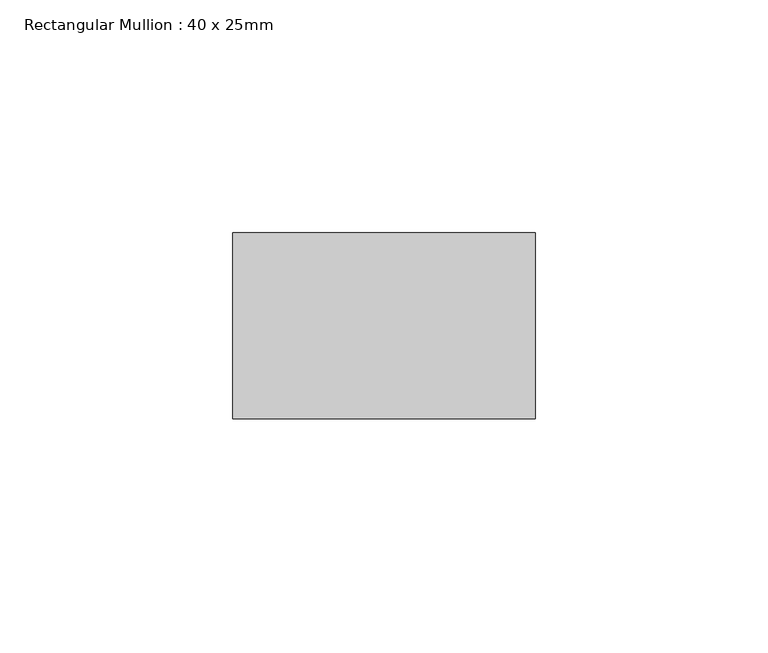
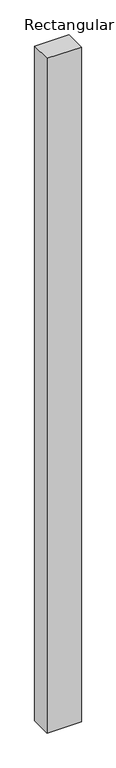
"""IFC4 building model written with IfcOpenShell, lengths in millimetres: member geometry, Rectangular Mullion : 40 x 25mm."""

import ifcopenshell
import ifcopenshell.guid

model = None  # the IFC model being written
_history = None  # IfcOwnerHistory: only IFC2X3 demands one
_inside = {}  # id of a spatial element -> (the spatial element, [elements in it])
_under = {}  # id of a project, library or spatial element -> (it, [spatial elements below it])
_declared = {}  # id of a project -> (the project, [libraries it declares])
_typed = {}  # id of a type object -> (the type object, [elements of that type])
_made_of = {}  # id of a material, layer set ... -> (it, [elements and type objects made of it])


def new_model(schema):
    """Start an empty IFC model of exactly this schema.

    Asked for "IFC4X3", IfcOpenShell would pick the latest addendum, in which some entities
    have other attributes; the version numbers below select the first issue.
    IFC2X3 requires an IfcOwnerHistory on every rooted entity: one is made here for all.
    """
    global model, _history
    if schema == "IFC4X3":
        model = ifcopenshell.file(schema_version=(4, 3, 0, 0))
    else:
        model = ifcopenshell.file(schema=schema)
    _inside.clear()
    _under.clear()
    _declared.clear()
    _typed.clear()
    _made_of.clear()
    _history = None
    if model.schema == "IFC2X3":
        org = make("IfcOrganization", Name="unknown")
        user = make(
            "IfcPersonAndOrganization",
            ThePerson=make("IfcPerson", FamilyName="unknown"),
            TheOrganization=org,
        )
        app = make(
            "IfcApplication",
            ApplicationDeveloper=org,
            Version="unknown",
            ApplicationFullName="unknown",
            ApplicationIdentifier="unknown",
        )
        _history = make(
            "IfcOwnerHistory",
            OwningUser=user,
            OwningApplication=app,
            ChangeAction="ADDED",
            CreationDate=0,
        )
    return model


def make(cls, **values):
    """One entity of the class cls with the attributes given. An attribute that is None is left unset."""
    return model.create_entity(
        cls, **{name: value for name, value in values.items() if value is not None}
    )


def rooted(cls, **values):
    """An entity with a GlobalId (a new one), such as an element, a storey or a relation."""
    return make(cls, GlobalId=ifcopenshell.guid.new(), OwnerHistory=_history, **values)


def si_unit(unit_type, name, prefix=None):
    """IfcSIUnit, for example si_unit("LENGTHUNIT", "METRE", prefix="MILLI")."""
    return make("IfcSIUnit", UnitType=unit_type, Prefix=prefix, Name=name)


def assignment(units):
    """IfcUnitAssignment: the units of a project."""
    return None if units is None else make("IfcUnitAssignment", Units=units)


def point(xyz):
    """IfcCartesianPoint."""
    return None if xyz is None else make("IfcCartesianPoint", Coordinates=xyz)


def direction(xyz):
    """IfcDirection."""
    return None if xyz is None else make("IfcDirection", DirectionRatios=xyz)


def frame(location, z_axis=None, x_axis=None):
    """IfcAxis2Placement3D, a coordinate frame: its origin and axes. An axis left out is left unset."""
    return make(
        "IfcAxis2Placement3D",
        Location=point(location),
        Axis=direction(z_axis),
        RefDirection=direction(x_axis),
    )


def origin():
    """The frame at (0, 0, 0) with its axes left unset."""
    return frame((0.0, 0.0, 0.0))


def place(relative_to, where):
    """IfcLocalPlacement: puts the frame where relative to a parent placement (None: the world)."""
    return make(
        "IfcLocalPlacement", PlacementRelTo=relative_to, RelativePlacement=where
    )


def context(
    kind, dimensions, precision=None, world=None, true_north=None, identifier=None
):
    """IfcGeometricRepresentationContext, for example the 3D "Model" context."""
    return make(
        "IfcGeometricRepresentationContext",
        ContextIdentifier=identifier,
        ContextType=kind,
        CoordinateSpaceDimension=dimensions,
        Precision=precision,
        WorldCoordinateSystem=world,
        TrueNorth=true_north,
    )


def project(units=None, contexts=None):
    """IfcProject with its units and contexts."""
    return rooted(
        "IfcProject",
        Name="project",
        RepresentationContexts=contexts,
        UnitsInContext=assignment(units),
    )


def spatial(cls, under=None, at=None, **own):
    """A site, building, storey or space (cls), placed at a placement, below another one or the project."""
    s = rooted(cls, ObjectPlacement=at, **own)
    if under is not None:
        _under.setdefault(under.id(), (under, []))[1].append(s)
    return s


def polyline(points):
    """IfcPolyline through the points."""
    return make("IfcPolyline", Points=[point(p) for p in points])


def outline(outer, holes=None, kind="AREA"):
    """IfcArbitraryClosedProfileDef: a profile drawn as a closed curve; with holes, ...WithVoids."""
    if holes is None:
        return make("IfcArbitraryClosedProfileDef", ProfileType=kind, OuterCurve=outer)
    return make(
        "IfcArbitraryProfileDefWithVoids",
        ProfileType=kind,
        OuterCurve=outer,
        InnerCurves=holes,
    )


def extrude(swept, where, along, depth):
    """IfcExtrudedAreaSolid: the profile swept, set in the frame where, extruded along a direction by depth."""
    return make(
        "IfcExtrudedAreaSolid",
        SweptArea=swept,
        Position=where,
        ExtrudedDirection=direction(along),
        Depth=depth,
    )


def shape(context_of_items, identifier, shape_type, items):
    """IfcShapeRepresentation: the items that make up one representation, for example the "Body"."""
    return make(
        "IfcShapeRepresentation",
        ContextOfItems=context_of_items,
        RepresentationIdentifier=identifier,
        RepresentationType=shape_type,
        Items=items,
    )


def source(mapping_origin, context_of_items, identifier, shape_type, items):
    """IfcRepresentationMap: a shape defined once, which mapped items show again and again."""
    return make(
        "IfcRepresentationMap",
        MappingOrigin=mapping_origin,
        MappedRepresentation=shape(context_of_items, identifier, shape_type, items),
    )


def transform(
    local_origin,
    x_axis=None,
    y_axis=None,
    z_axis=None,
    scale=None,
    scale2=None,
    scale3=None,
    uniform=True,
):
    """IfcCartesianTransformationOperator3D, or its non-uniform kind. x_axis, y_axis, z_axis: its Axis1, 2, 3."""
    if uniform:
        return make(
            "IfcCartesianTransformationOperator3D",
            Axis1=direction(x_axis),
            Axis2=direction(y_axis),
            LocalOrigin=point(local_origin),
            Scale=scale,
            Axis3=direction(z_axis),
        )
    return make(
        "IfcCartesianTransformationOperator3DnonUniform",
        Axis1=direction(x_axis),
        Axis2=direction(y_axis),
        LocalOrigin=point(local_origin),
        Scale=scale,
        Axis3=direction(z_axis),
        Scale2=scale2,
        Scale3=scale3,
    )


def mapped(mapping_source, mapping_target):
    """IfcMappedItem: shows the shape of a source again, moved by a transform."""
    return make(
        "IfcMappedItem", MappingSource=mapping_source, MappingTarget=mapping_target
    )


def made_of(thing, what):
    """Note that an element or type object is made of a material, layer set ...; save() writes the relation."""
    if what is not None:
        _made_of.setdefault(what.id(), (what, []))[1].append(thing)
    return thing


def element(
    cls,
    number,
    at=None,
    inside=None,
    cuts=None,
    type_object=None,
    material=None,
    context=None,
    identifier="Body",
    shape_type=None,
    held_by="IfcProductDefinitionShape",
    body=None,
    shapes=None,
    **own,
):
    """One element of the class cls, such as IfcWall. Its Tag is "e" and its number.

    at: its placement. inside: the storey or other place that contains it. cuts: it is an
    opening in that element (IfcRelVoidsElement). A single representation is given by context,
    identifier, shape_type and body (its items); several are given by shapes. held_by: the class
    of the entity that holds the representations. save() writes the other relations.
    """
    e = rooted(cls, Tag="e%d" % number, ObjectPlacement=at, **own)
    if body is not None:
        shapes = [shape(context, identifier, shape_type, body)]
    if shapes is not None:
        e.Representation = make(held_by, Representations=shapes)
    if inside is not None:
        _inside.setdefault(inside.id(), (inside, []))[1].append(e)
    if cuts is not None:
        rooted(
            "IfcRelVoidsElement", RelatingBuildingElement=cuts, RelatedOpeningElement=e
        )
    if type_object is not None:
        _typed.setdefault(type_object.id(), (type_object, []))[1].append(e)
    return made_of(e, material)


def aggregate(whole, parts):
    """IfcRelAggregates: a whole, such as a stair, and the parts it consists of."""
    return rooted("IfcRelAggregates", RelatingObject=whole, RelatedObjects=parts)


def save(model, path):
    """Write the relations noted so far, then the file.

    IfcRelAggregates (storeys below a building ...), IfcRelContainedInSpatialStructure (elements
    in a storey), IfcRelDefinesByType, IfcRelAssociatesMaterial and IfcRelDeclares: one each for
    every whole, place, type object, material and project.
    """
    for whole, parts in _under.values():
        aggregate(whole, parts)
    for where, things in _inside.values():
        rooted(
            "IfcRelContainedInSpatialStructure",
            RelatedElements=things,
            RelatingStructure=where,
        )
    for kind, things in _typed.values():
        rooted("IfcRelDefinesByType", RelatedObjects=things, RelatingType=kind)
    for what, things in _made_of.values():
        rooted("IfcRelAssociatesMaterial", RelatedObjects=things, RelatingMaterial=what)
    for by, libraries in _declared.values():
        rooted("IfcRelDeclares", RelatingContext=by, RelatedDefinitions=libraries)
    model.write(path)


def rectangular_mullion_40_x_25mm_f11c1d54(model_context):
    return source(origin(), model_context, "Body", "SweptSolid", [
        extrude(outline(polyline([(0.0, -20.0), (0.0, -60.0), (-65.0, -60.0), (-65.0, -20.0), (0.0, -20.0)])), frame((0.0, 0.0, -1348.3035148), z_axis=(0.0, 0.0, 1.0), x_axis=(1.0, 0.0, 0.0)), (0.0, 0.0, 1.0), 1348.3035148),
    ])


if __name__ == "__main__":
    model = new_model("IFC4")
    model_context = context("Model", 3, world=origin())
    ifc_project = project(units=[si_unit("LENGTHUNIT", "METRE", prefix="MILLI")], contexts=[model_context])
    site = spatial("IfcSite", under=ifc_project)
    building = spatial("IfcBuilding", under=site)
    placement = place(None, origin())
    rectangular_mullion_40_x_25mm_shape = rectangular_mullion_40_x_25mm_f11c1d54(model_context)
    element("IfcMember", 1, ObjectType="Rectangular Mullion : 40 x 25mm", at=placement, inside=building, context=model_context, shape_type="MappedRepresentation", body=[
        mapped(rectangular_mullion_40_x_25mm_shape, transform((0.0, 0.0, 0.0), x_axis=(1.0, 0.0, 0.0), y_axis=(0.0, 1.0, 0.0), z_axis=(0.0, 0.0, 1.0))),
    ])
    save(model, "model.ifc")
